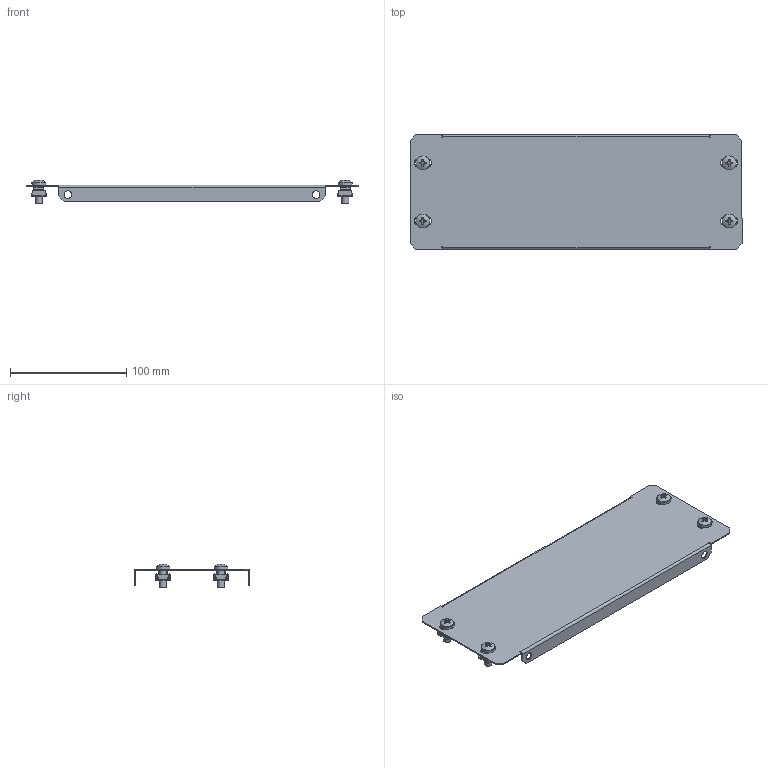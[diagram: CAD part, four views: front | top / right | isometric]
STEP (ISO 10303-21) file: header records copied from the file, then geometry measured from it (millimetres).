
FILE_DESCRIPTION (( 'STEP AP203' ), '1' );
FILE_NAME ('MA1.400.060000.01.00 Ïëàñòðîí Â100 Ø400 EKF AleSta-FP10M400.STEP', '2024-12-02T12:47:05', ( '' ), ( '' ), 'SwSTEP 2.0', 'SolidWorks 2021', '' );
FILE_SCHEMA (( 'CONFIG_CONTROL_DESIGN' ));
Length unit declared in the file: millimetre
Products named in the file (6): Ãàéêà çàêëàäíàÿ; MA1.400.060000.01.01 Ïëàñòðîí Â50 Ø600 EKF AleSta_Copy of ˜=400; pan head cross recess screw_din_DIN EN ISO 7045 - M6 x 16 - Z - 16N; Ãàéêà çàêëàäêàÿ Ì6; MA1.400.060000.01.00 Ïëàñòðîí Â100 Ø400 EKF AleSta-FP10M400; Îáîëî÷êà ãàéêè çàêëàäíîé
Assembly tree (11 placements, depth 3):
  MA1.400.060000.01.00 Ïëàñòðîí Â100 Ø400 EKF AleSta-FP10M400
    MA1.400.060000.01.01 Ïëàñòðîí Â50 Ø600 EKF AleSta_Copy of ˜=400
    Ãàéêà çàêëàäíàÿ  x4
      Îáîëî÷êà ãàéêè çàêëàäíîé
      Ãàéêà çàêëàäêàÿ Ì6
    pan head cross recess screw_din_DIN EN ISO 7045 - M6 x 16 - Z - 16N  x4
Bounding box: 286 x 99 x 20.48 mm (x, y, z)
Volume: 38727.2 mm3; surface area: 75291.5 mm2
Topology: 13 solids, 13 shells, 690 faces, 1534 edges, 874 vertices
Faces by surface type: plane 442, cylinder 144, bspline 64, cone 28, torus 8, sphere 4
Full cylindrical faces by diameter (mm): 6 x8, 6.5 x4, 7 x4, 12 x4
Entity records: 7404 total; most frequent: CARTESIAN_POINT 1669, DIRECTION 1010, ORIENTED_EDGE 1000, EDGE_CURVE 500, LINE 352, VECTOR 352, AXIS2_PLACEMENT_3D 329, VERTEX_POINT 300
